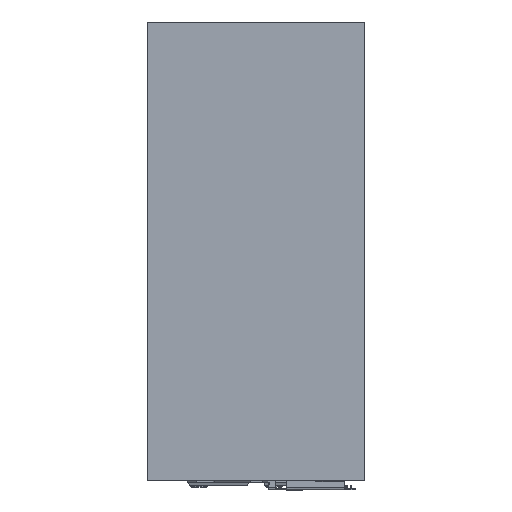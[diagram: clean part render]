
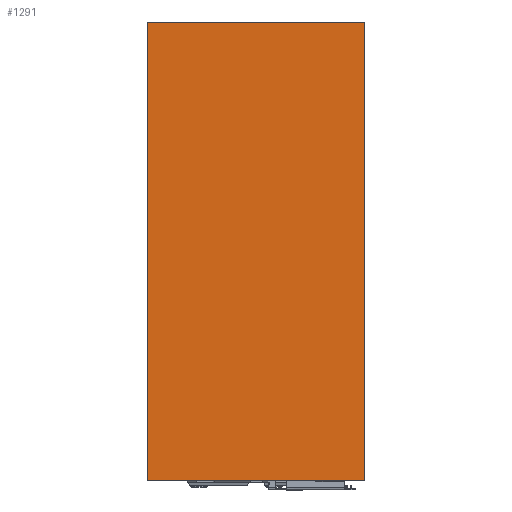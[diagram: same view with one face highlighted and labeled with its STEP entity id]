
A CAD part, left-side view. The second image highlights one B-rep face of the part: STEP entity #1291.
In plain terms, the highlighted planar face has unit normal (-1, 0, 0).
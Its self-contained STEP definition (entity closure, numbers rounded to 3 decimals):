
#117 = DIRECTION ( 'NONE',  ( 0., 1., 0. ) ) ;
#152 = ORIENTED_EDGE ( 'NONE', *, *, #1044, .F. ) ;
#248 = EDGE_CURVE ( 'NONE', #944, #1341, #4073, .T. ) ;
#257 = CARTESIAN_POINT ( 'NONE',  ( 2.5, 156., -390. ) ) ;
#274 = CARTESIAN_POINT ( 'NONE',  ( 2.5, -29., 0. ) ) ;
#422 = DIRECTION ( 'NONE',  ( 1., 0., 0. ) ) ;
#439 = PLANE ( 'NONE',  #2918 ) ;
#597 = EDGE_CURVE ( 'NONE', #714, #944, #1778, .T. ) ;
#714 = VERTEX_POINT ( 'NONE', #1405 ) ;
#828 = CARTESIAN_POINT ( 'NONE',  ( 2.5, -29., 0. ) ) ;
#873 = ORIENTED_EDGE ( 'NONE', *, *, #597, .T. ) ;
#885 = VERTEX_POINT ( 'NONE', #2811 ) ;
#944 = VERTEX_POINT ( 'NONE', #3138 ) ;
#1044 = EDGE_CURVE ( 'NONE', #714, #885, #4085, .T. ) ;
#1107 = DIRECTION ( 'NONE',  ( 0., -1., 0. ) ) ;
#1140 = VECTOR ( 'NONE', #2555, 1000. ) ;
#1213 = EDGE_CURVE ( 'NONE', #1341, #885, #1699, .T. ) ;
#1242 = VECTOR ( 'NONE', #1107, 1000. ) ;
#1291 = ADVANCED_FACE ( 'NONE', ( #2530 ), #439, .F. ) ;
#1341 = VERTEX_POINT ( 'NONE', #257 ) ;
#1405 = CARTESIAN_POINT ( 'NONE',  ( 2.5, -29., 0. ) ) ;
#1699 = LINE ( 'NONE', #2415, #1242 ) ;
#1778 = LINE ( 'NONE', #274, #2808 ) ;
#1935 = EDGE_LOOP ( 'NONE', ( #152, #873, #3172, #2955 ) ) ;
#2275 = VECTOR ( 'NONE', #3882, 1000. ) ;
#2415 = CARTESIAN_POINT ( 'NONE',  ( 2.5, 155.9, -390. ) ) ;
#2530 = FACE_OUTER_BOUND ( 'NONE', #1935, .T. ) ;
#2538 = CARTESIAN_POINT ( 'NONE',  ( 2.5, 156., 0. ) ) ;
#2555 = DIRECTION ( 'NONE',  ( 0., 0., -1. ) ) ;
#2808 = VECTOR ( 'NONE', #117, 1000. ) ;
#2811 = CARTESIAN_POINT ( 'NONE',  ( 2.5, -29., -390. ) ) ;
#2918 = AXIS2_PLACEMENT_3D ( 'NONE', #828, #422, #3282 ) ;
#2955 = ORIENTED_EDGE ( 'NONE', *, *, #1213, .T. ) ;
#3138 = CARTESIAN_POINT ( 'NONE',  ( 2.5, 156., 0. ) ) ;
#3172 = ORIENTED_EDGE ( 'NONE', *, *, #248, .T. ) ;
#3282 = DIRECTION ( 'NONE',  ( 0., 0., 1. ) ) ;
#3732 = CARTESIAN_POINT ( 'NONE',  ( 2.5, -29., 0. ) ) ;
#3882 = DIRECTION ( 'NONE',  ( 0., 0., -1. ) ) ;
#4073 = LINE ( 'NONE', #2538, #1140 ) ;
#4085 = LINE ( 'NONE', #3732, #2275 ) ;
